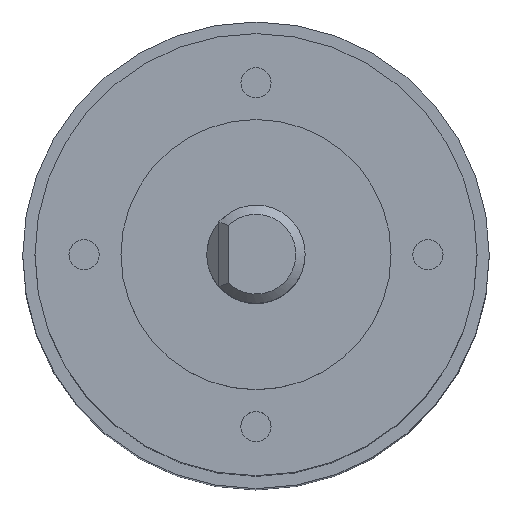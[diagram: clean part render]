
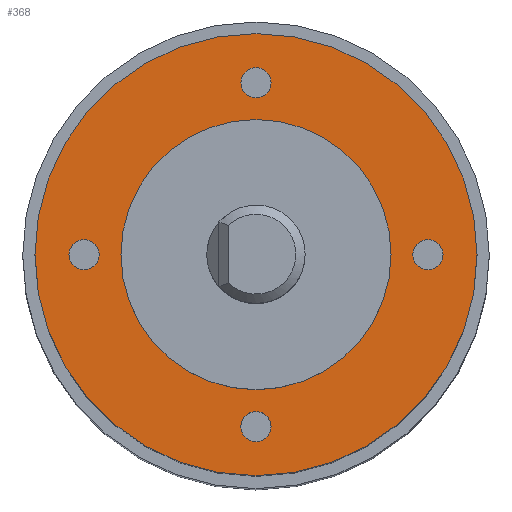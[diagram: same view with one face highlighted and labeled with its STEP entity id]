
A CAD part, top view. The second image highlights one B-rep face of the part: STEP entity #368.
In plain terms, the highlighted planar face has unit normal (0, 0, 1).
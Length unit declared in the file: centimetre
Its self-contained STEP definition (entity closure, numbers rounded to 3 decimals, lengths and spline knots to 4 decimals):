
#168=VERTEX_POINT('',#1203);
#170=VERTEX_POINT('',#1209);
#172=VERTEX_POINT('',#1215);
#174=VERTEX_POINT('',#1221);
#183=VERTEX_POINT('',#1257);
#184=VERTEX_POINT('',#1261);
#191=EDGE_CURVE('',#168,#168,#513,.T.);
#193=EDGE_CURVE('',#170,#170,#515,.T.);
#195=EDGE_CURVE('',#172,#172,#517,.T.);
#197=EDGE_CURVE('',#174,#174,#519,.T.);
#210=EDGE_CURVE('',#183,#183,#524,.T.);
#211=EDGE_CURVE('',#184,#184,#525,.T.);
#257=ORIENTED_EDGE('',*,*,#191,.T.);
#258=ORIENTED_EDGE('',*,*,#193,.T.);
#259=ORIENTED_EDGE('',*,*,#195,.T.);
#260=ORIENTED_EDGE('',*,*,#197,.T.);
#261=ORIENTED_EDGE('',*,*,#210,.T.);
#262=ORIENTED_EDGE('',*,*,#211,.F.);
#297=EDGE_LOOP('',(#257));
#298=EDGE_LOOP('',(#258));
#299=EDGE_LOOP('',(#259));
#300=EDGE_LOOP('',(#260));
#301=EDGE_LOOP('',(#261));
#302=EDGE_LOOP('',(#262));
#337=FACE_BOUND('',#297,.T.);
#338=FACE_BOUND('',#298,.T.);
#339=FACE_BOUND('',#299,.T.);
#340=FACE_BOUND('',#300,.T.);
#341=FACE_BOUND('',#301,.T.);
#342=FACE_BOUND('',#302,.T.);
#368=ADVANCED_FACE('',(#337,#338,#339,#340,#341,#342),#917,.T.);
#513=CIRCLE('',#839,0.123);
#515=CIRCLE('',#843,0.123);
#517=CIRCLE('',#847,0.123);
#519=CIRCLE('',#851,0.123);
#524=CIRCLE('',#865,1.1);
#525=CIRCLE('',#868,1.8);
#839=AXIS2_PLACEMENT_3D('',#1202,#1037,#1038);
#843=AXIS2_PLACEMENT_3D('',#1208,#1044,#1045);
#847=AXIS2_PLACEMENT_3D('',#1214,#1051,#1052);
#851=AXIS2_PLACEMENT_3D('',#1220,#1058,#1059);
#865=AXIS2_PLACEMENT_3D('',#1256,#1086,#1087);
#868=AXIS2_PLACEMENT_3D('',#1260,#1091,#1092);
#870=AXIS2_PLACEMENT_3D('',#1264,#1095,$);
#917=PLANE('',#870);
#1037=DIRECTION('',(0.,0.,-1.));
#1038=DIRECTION('',(0.,0.123,0.));
#1044=DIRECTION('',(0.,0.,-1.));
#1045=DIRECTION('',(0.,0.123,0.));
#1051=DIRECTION('',(0.,0.,-1.));
#1052=DIRECTION('',(0.,0.123,0.));
#1058=DIRECTION('',(0.,0.,-1.));
#1059=DIRECTION('',(0.,0.123,0.));
#1086=DIRECTION('',(0.,0.,-1.));
#1087=DIRECTION('',(1.1,0.,0.));
#1091=DIRECTION('',(0.,0.,-1.));
#1092=DIRECTION('',(1.8,0.,0.));
#1095=DIRECTION('',(0.,0.,1.));
#1202=CARTESIAN_POINT('',(-1.4,-0.0001,9.45));
#1203=CARTESIAN_POINT('',(-1.4,0.1229,9.45));
#1208=CARTESIAN_POINT('',(-0.0006,-1.4,9.45));
#1209=CARTESIAN_POINT('',(-0.0006,-1.277,9.45));
#1214=CARTESIAN_POINT('',(1.4,0.,9.45));
#1215=CARTESIAN_POINT('',(1.4,0.123,9.45));
#1220=CARTESIAN_POINT('',(0.,1.4,9.45));
#1221=CARTESIAN_POINT('',(0.,1.5229,9.45));
#1256=CARTESIAN_POINT('',(0.,0.,9.45));
#1257=CARTESIAN_POINT('',(1.1,0.,9.45));
#1260=CARTESIAN_POINT('',(0.,0.,9.45));
#1261=CARTESIAN_POINT('',(1.8,0.,9.45));
#1264=CARTESIAN_POINT('',(0.,0.,9.45));
